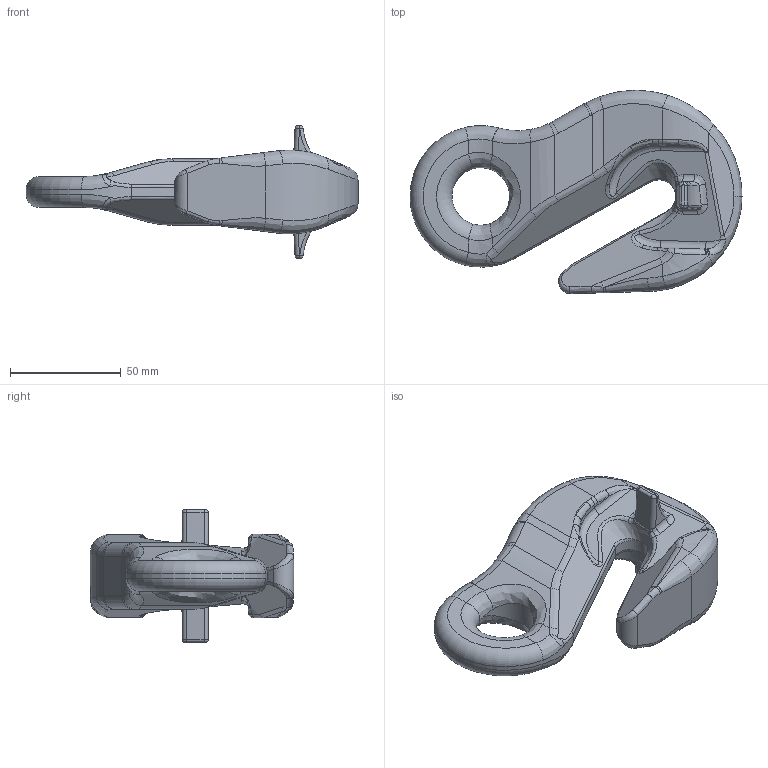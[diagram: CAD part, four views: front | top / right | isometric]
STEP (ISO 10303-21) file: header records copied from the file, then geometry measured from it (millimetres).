
FILE_DESCRIPTION(/* description */ (''),/* implementation_level */ '2;1');
FILE_NAME(/* name */ 'PW_13_Kundenmodell.stp',/* time_stamp */ '2018-02-01T16:12:43+01:00',/* author */ (''),/* organization */ (''),/* preprocessor_version */ 'ST-DEVELOPER v16',/* originating_system */ 'SIEMENS PLM Software NX 11.0',/* authorisation */ '');
FILE_SCHEMA (('AUTOMOTIVE_DESIGN { 1 0 10303 214 3 1 1 1 }'));
Length unit declared in the file: millimetre
Products named in the file (1): zer231C6D77h7uq
Bounding box: 150.21 x 91.99 x 60 mm (x, y, z)
Volume: 202613 mm3; surface area: 30092.8 mm2
Topology: 1 solids, 1 shells, 257 faces, 603 edges, 340 vertices
Faces by surface type: bspline 162, cylinder 48, plane 32, torus 11, extrusion 4
Entity records: 12623 total; most frequent: CARTESIAN_POINT 7822, ORIENTED_EDGE 1194, DIRECTION 751, EDGE_CURVE 597, VERTEX_POINT 340, AXIS2_PLACEMENT_3D 328, B_SPLINE_CURVE_WITH_KNOTS 259, ADVANCED_FACE 257
